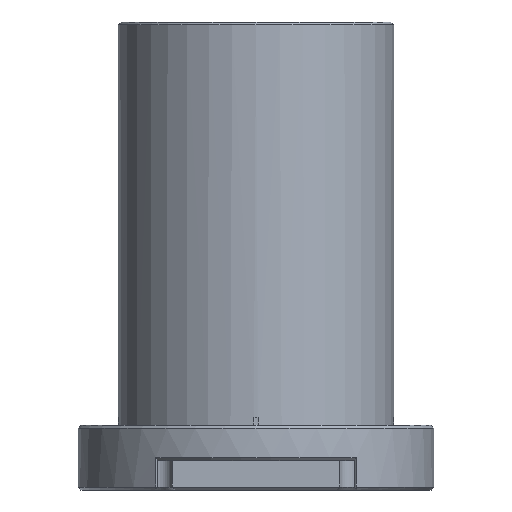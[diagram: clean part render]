
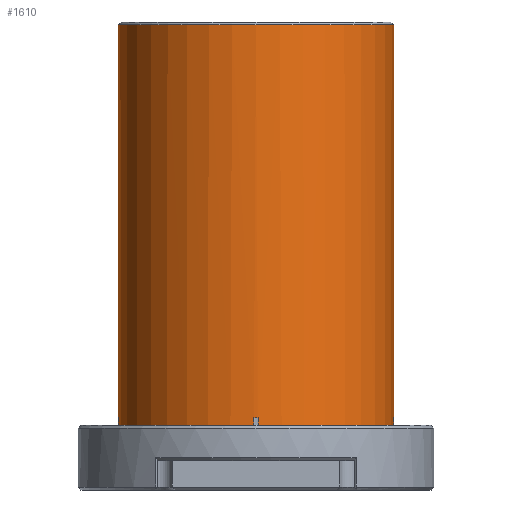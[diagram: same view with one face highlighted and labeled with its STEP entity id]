
A CAD part, front view. The second image highlights one B-rep face of the part: STEP entity #1610.
In plain terms, the highlighted cylindrical face has radius 14 mm (diameter 28 mm), a partial arc.
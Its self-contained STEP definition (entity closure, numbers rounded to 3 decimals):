
#35 = VECTOR ( 'NONE', #1514, 1000. ) ;
#81 = DIRECTION ( 'NONE',  ( 0., 0., -1. ) ) ;
#93 = CARTESIAN_POINT ( 'NONE',  ( 0., 0., 6.6 ) ) ;
#166 = CARTESIAN_POINT ( 'NONE',  ( -13.998, -0.217, 7.35 ) ) ;
#171 = CARTESIAN_POINT ( 'NONE',  ( -0.217, -13.998, 6.6 ) ) ;
#172 = CARTESIAN_POINT ( 'NONE',  ( 13.998, -0.217, 7.35 ) ) ;
#191 = CIRCLE ( 'NONE', #922, 14. ) ;
#219 = EDGE_CURVE ( 'NONE', #1373, #1679, #1333, .T. ) ;
#246 = CARTESIAN_POINT ( 'NONE',  ( 0.217, -13.998, 7.35 ) ) ;
#257 = VERTEX_POINT ( 'NONE', #171 ) ;
#262 = DIRECTION ( 'NONE',  ( 0., 0., -1. ) ) ;
#289 = EDGE_CURVE ( 'NONE', #811, #1281, #1949, .T. ) ;
#319 = CIRCLE ( 'NONE', #476, 14. ) ;
#330 = CARTESIAN_POINT ( 'NONE',  ( 13.999, -0.145, 7.36 ) ) ;
#370 = FACE_OUTER_BOUND ( 'NONE', #742, .T. ) ;
#417 = VECTOR ( 'NONE', #1830, 1000. ) ;
#449 = CARTESIAN_POINT ( 'NONE',  ( -0.072, -14.001, 7.37 ) ) ;
#458 = CARTESIAN_POINT ( 'NONE',  ( 0.072, -14.001, 7.37 ) ) ;
#476 = AXIS2_PLACEMENT_3D ( 'NONE', #752, #262, #591 ) ;
#524 = DIRECTION ( 'NONE',  ( 1., 0., 0. ) ) ;
#548 = VERTEX_POINT ( 'NONE', #836 ) ;
#558 = ORIENTED_EDGE ( 'NONE', *, *, #1855, .T. ) ;
#577 = ORIENTED_EDGE ( 'NONE', *, *, #1066, .T. ) ;
#591 = DIRECTION ( 'NONE',  ( 1., 0., 0. ) ) ;
#610 = CARTESIAN_POINT ( 'NONE',  ( 0.217, -13.998, 7.35 ) ) ;
#616 = CARTESIAN_POINT ( 'NONE',  ( -0.217, -13.998, 3.675 ) ) ;
#619 = CARTESIAN_POINT ( 'NONE',  ( 14., 0., 7.365 ) ) ;
#639 = DIRECTION ( 'NONE',  ( 0., 0., -1. ) ) ;
#646 = CYLINDRICAL_SURFACE ( 'NONE', #1901, 14. ) ;
#653 = VECTOR ( 'NONE', #1380, 1000. ) ;
#657 = DIRECTION ( 'NONE',  ( 1., 0., 0. ) ) ;
#674 = VERTEX_POINT ( 'NONE', #764 ) ;
#685 = ORIENTED_EDGE ( 'NONE', *, *, #289, .F. ) ;
#715 = ORIENTED_EDGE ( 'NONE', *, *, #1560, .T. ) ;
#742 = EDGE_LOOP ( 'NONE', ( #685, #868, #967, #771, #577, #854, #558, #1480, #1627, #715, #838, #1707 ) ) ;
#747 = CARTESIAN_POINT ( 'NONE',  ( -13.998, -0.217, 7.35 ) ) ;
#752 = CARTESIAN_POINT ( 'NONE',  ( 0., 0., 47.3 ) ) ;
#764 = CARTESIAN_POINT ( 'NONE',  ( 13.998, -0.217, 6.6 ) ) ;
#771 = ORIENTED_EDGE ( 'NONE', *, *, #1122, .T. ) ;
#772 = CARTESIAN_POINT ( 'NONE',  ( -13.999, -0.145, 7.36 ) ) ;
#779 = CARTESIAN_POINT ( 'NONE',  ( 14., 0., 47.6 ) ) ;
#811 = VERTEX_POINT ( 'NONE', #1842 ) ;
#836 = CARTESIAN_POINT ( 'NONE',  ( 13.998, -0.217, 7.35 ) ) ;
#838 = ORIENTED_EDGE ( 'NONE', *, *, #1060, .T. ) ;
#854 = ORIENTED_EDGE ( 'NONE', *, *, #1273, .T. ) ;
#868 = ORIENTED_EDGE ( 'NONE', *, *, #1053, .T. ) ;
#891 = CARTESIAN_POINT ( 'NONE',  ( 13.998, -0.217, 3.675 ) ) ;
#910 = LINE ( 'NONE', #891, #1076 ) ;
#922 = AXIS2_PLACEMENT_3D ( 'NONE', #93, #1137, #524 ) ;
#932 = CARTESIAN_POINT ( 'NONE',  ( -14., 0., 47.6 ) ) ;
#955 = CIRCLE ( 'NONE', #1303, 14. ) ;
#965 = CARTESIAN_POINT ( 'NONE',  ( 0., 0., 6.6 ) ) ;
#967 = ORIENTED_EDGE ( 'NONE', *, *, #1100, .T. ) ;
#982 = CARTESIAN_POINT ( 'NONE',  ( 0., 0., 47.6 ) ) ;
#998 = CARTESIAN_POINT ( 'NONE',  ( -0.217, -13.998, 7.35 ) ) ;
#1053 = EDGE_CURVE ( 'NONE', #811, #1442, #319, .T. ) ;
#1056 = DIRECTION ( 'NONE',  ( 0., 0., 1. ) ) ;
#1060 = EDGE_CURVE ( 'NONE', #674, #548, #910, .T. ) ;
#1066 = EDGE_CURVE ( 'NONE', #1448, #1630, #1474, .T. ) ;
#1076 = VECTOR ( 'NONE', #1056, 1000. ) ;
#1090 = DIRECTION ( 'NONE',  ( 0., 0., 1. ) ) ;
#1094 = CARTESIAN_POINT ( 'NONE',  ( -14., -0.072, 7.365 ) ) ;
#1100 = EDGE_CURVE ( 'NONE', #1442, #1396, #1510, .T. ) ;
#1114 = CARTESIAN_POINT ( 'NONE',  ( 14., 0., 7.365 ) ) ;
#1122 = EDGE_CURVE ( 'NONE', #1396, #1448, #1810, .T. ) ;
#1137 = DIRECTION ( 'NONE',  ( 0., 0., 1. ) ) ;
#1142 = LINE ( 'NONE', #1432, #1458 ) ;
#1212 = CARTESIAN_POINT ( 'NONE',  ( 14., -0.072, 7.365 ) ) ;
#1273 = EDGE_CURVE ( 'NONE', #1630, #257, #191, .T. ) ;
#1281 = VERTEX_POINT ( 'NONE', #1114 ) ;
#1303 = AXIS2_PLACEMENT_3D ( 'NONE', #965, #1090, #657 ) ;
#1316 = CARTESIAN_POINT ( 'NONE',  ( -14., 0., 7.365 ) ) ;
#1333 = B_SPLINE_CURVE_WITH_KNOTS ( 'NONE', 3,
 ( #1825, #449, #458, #610 ),
 .UNSPECIFIED., .F., .F.,
 ( 4, 4 ),
 ( 0., 0. ),
 .UNSPECIFIED. ) ;
#1338 = LINE ( 'NONE', #616, #35 ) ;
#1373 = VERTEX_POINT ( 'NONE', #998 ) ;
#1380 = DIRECTION ( 'NONE',  ( 0., 0., -1. ) ) ;
#1396 = VERTEX_POINT ( 'NONE', #1316 ) ;
#1432 = CARTESIAN_POINT ( 'NONE',  ( 0.217, -13.998, 3.675 ) ) ;
#1442 = VERTEX_POINT ( 'NONE', #1507 ) ;
#1448 = VERTEX_POINT ( 'NONE', #747 ) ;
#1458 = VECTOR ( 'NONE', #81, 1000. ) ;
#1470 = B_SPLINE_CURVE_WITH_KNOTS ( 'NONE', 3,
 ( #172, #330, #1212, #619 ),
 .UNSPECIFIED., .F., .F.,
 ( 4, 4 ),
 ( 0., 0. ),
 .UNSPECIFIED. ) ;
#1474 = LINE ( 'NONE', #1809, #1486 ) ;
#1480 = ORIENTED_EDGE ( 'NONE', *, *, #219, .T. ) ;
#1486 = VECTOR ( 'NONE', #1659, 1000. ) ;
#1507 = CARTESIAN_POINT ( 'NONE',  ( -14., 0., 47.3 ) ) ;
#1508 = EDGE_CURVE ( 'NONE', #548, #1281, #1470, .T. ) ;
#1510 = LINE ( 'NONE', #932, #417 ) ;
#1514 = DIRECTION ( 'NONE',  ( 0., 0., 1. ) ) ;
#1560 = EDGE_CURVE ( 'NONE', #1873, #674, #955, .T. ) ;
#1610 = ADVANCED_FACE ( 'NONE', ( #370 ), #646, .T. ) ;
#1627 = ORIENTED_EDGE ( 'NONE', *, *, #1788, .T. ) ;
#1630 = VERTEX_POINT ( 'NONE', #1736 ) ;
#1659 = DIRECTION ( 'NONE',  ( 0., 0., -1. ) ) ;
#1679 = VERTEX_POINT ( 'NONE', #246 ) ;
#1691 = CARTESIAN_POINT ( 'NONE',  ( -14., 0., 7.365 ) ) ;
#1707 = ORIENTED_EDGE ( 'NONE', *, *, #1508, .T. ) ;
#1736 = CARTESIAN_POINT ( 'NONE',  ( -13.998, -0.217, 6.6 ) ) ;
#1788 = EDGE_CURVE ( 'NONE', #1679, #1873, #1142, .T. ) ;
#1809 = CARTESIAN_POINT ( 'NONE',  ( -13.998, -0.217, 3.675 ) ) ;
#1810 = B_SPLINE_CURVE_WITH_KNOTS ( 'NONE', 3,
 ( #1691, #1094, #772, #166 ),
 .UNSPECIFIED., .F., .F.,
 ( 4, 4 ),
 ( 0., 0. ),
 .UNSPECIFIED. ) ;
#1823 = CARTESIAN_POINT ( 'NONE',  ( 0.217, -13.998, 6.6 ) ) ;
#1825 = CARTESIAN_POINT ( 'NONE',  ( -0.217, -13.998, 7.35 ) ) ;
#1830 = DIRECTION ( 'NONE',  ( 0., 0., -1. ) ) ;
#1842 = CARTESIAN_POINT ( 'NONE',  ( 14., 0., 47.3 ) ) ;
#1855 = EDGE_CURVE ( 'NONE', #257, #1373, #1338, .T. ) ;
#1873 = VERTEX_POINT ( 'NONE', #1823 ) ;
#1884 = DIRECTION ( 'NONE',  ( -1., 0., 0. ) ) ;
#1901 = AXIS2_PLACEMENT_3D ( 'NONE', #982, #639, #1884 ) ;
#1949 = LINE ( 'NONE', #779, #653 ) ;
